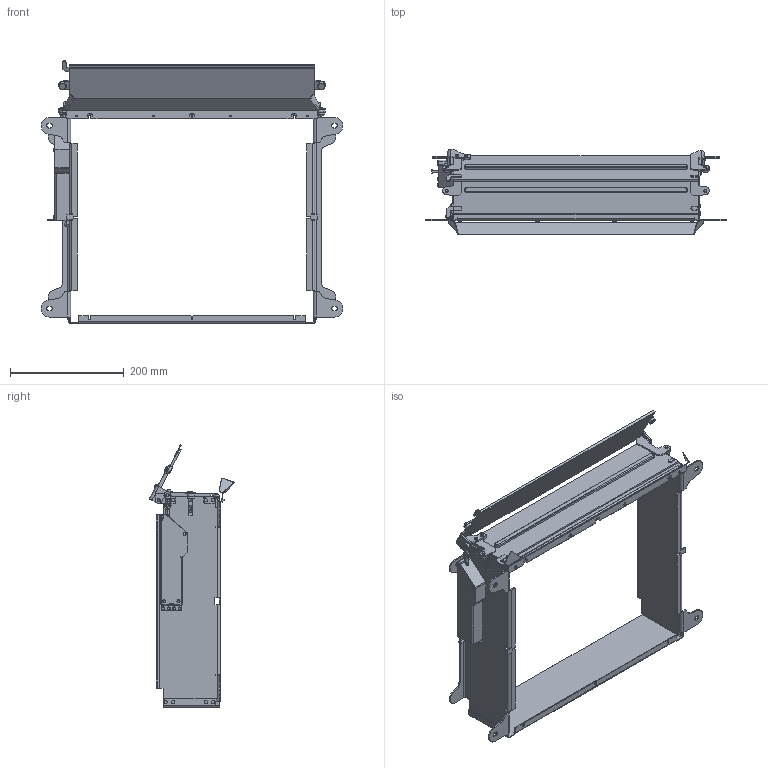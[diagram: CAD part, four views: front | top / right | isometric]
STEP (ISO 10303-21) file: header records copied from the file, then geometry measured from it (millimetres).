
FILE_DESCRIPTION (( 'STEP AP203' ), '1' );
FILE_NAME ('Asyril_PLATFORM FRAME RIGHT PURGE H=100mm - 530_000.103.812_(option).STEP', '2020-10-08T13:28:14', ( '' ), ( '' ), 'SwSTEP 2.0', 'SolidWorks 2017', '' );
FILE_SCHEMA (( 'CONFIG_CONTROL_DESIGN' ));
Length unit declared in the file: millimetre
Products named in the file (3): Asyril_PLATFORM FRAME RIGHT PURGE H=100mm - 530_000.103.812_CLOSED_(option); Asyril_PLATFORM FRAME RIGHT PURGE H=100mm - 530_000.103.812_OPEN_(option); Asyril_PLATFORM FRAME RIGHT PURGE H=100mm - 530_000.103.812_(option)
Assembly tree (2 placements, depth 2):
  Asyril_PLATFORM FRAME RIGHT PURGE H=100mm - 530_000.103.812_(option)
    Asyril_PLATFORM FRAME RIGHT PURGE H=100mm - 530_000.103.812_CLOSED_(option)
    Asyril_PLATFORM FRAME RIGHT PURGE H=100mm - 530_000.103.812_OPEN_(option)
Bounding box: 531.9 x 150.28 x 462.6 mm (x, y, z)
Volume: 1430223.3 mm3; surface area: 949641 mm2
Topology: 4 solids, 4 shells, 1892 faces, 4777 edges, 2993 vertices
Faces by surface type: plane 959, cylinder 717, cone 116, torus 76, bspline 24
Entity records: 58187 total; most frequent: CARTESIAN_POINT 11207, DIRECTION 10238, ORIENTED_EDGE 9554, EDGE_CURVE 4777, AXIS2_PLACEMENT_3D 3712, VERTEX_POINT 2993, LINE 2814, VECTOR 2814
